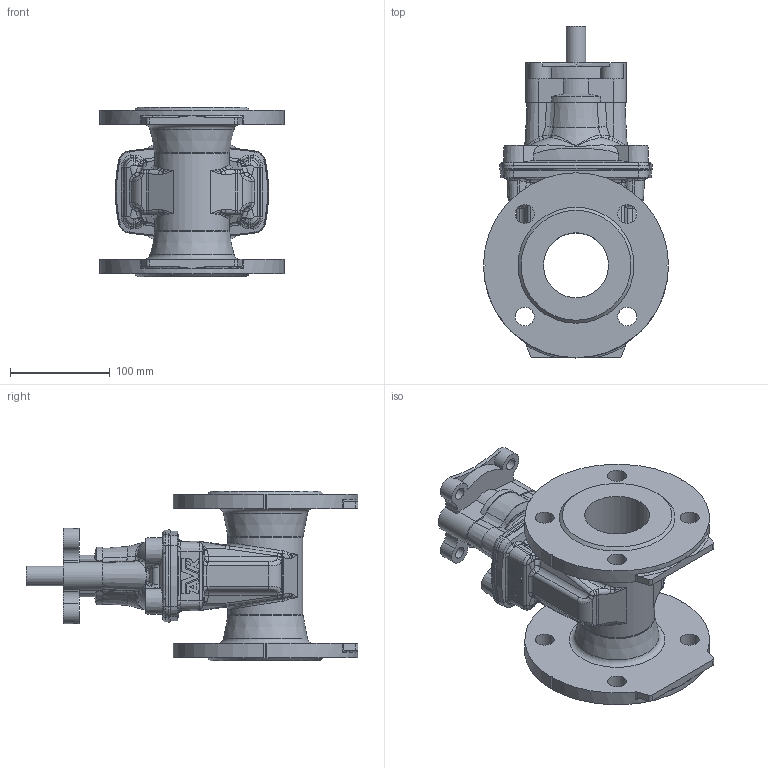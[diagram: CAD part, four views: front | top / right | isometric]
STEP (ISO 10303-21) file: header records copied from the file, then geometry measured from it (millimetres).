
FILE_DESCRIPTION (( 'STEP AP203' ), '1' );
FILE_NAME ('O_06_42_DN065_X1XXX_REV02.step', '2025-12-18T06:52:03', ( '' ), ( '' ), 'SwSTEP 2.0', 'SolidWorks 2022', '' );
FILE_SCHEMA (( 'CONFIG_CONTROL_DESIGN' ));
Length unit declared in the file: millimetre
Products named in the file (1): O_06_42_DN065_X1XXX_REV02
Bounding box: 184.98 x 332 x 170 mm (x, y, z)
Volume: 2130941.5 mm3; surface area: 268005 mm2
Topology: 1 solids, 1 shells, 544 faces, 1363 edges, 816 vertices
Faces by surface type: bspline 186, plane 130, cylinder 122, cone 66, torus 36, sphere 4
Full cylindrical faces by diameter (mm): 12 x4, 19 x8, 20 x1, 65 x1, 72 x1, 75 x1
Entity records: 21908 total; most frequent: CARTESIAN_POINT 10588, ORIENTED_EDGE 2620, DIRECTION 1975, EDGE_CURVE 1310, VERTEX_POINT 803, AXIS2_PLACEMENT_3D 782, EDGE_LOOP 605, FACE_OUTER_BOUND 564
